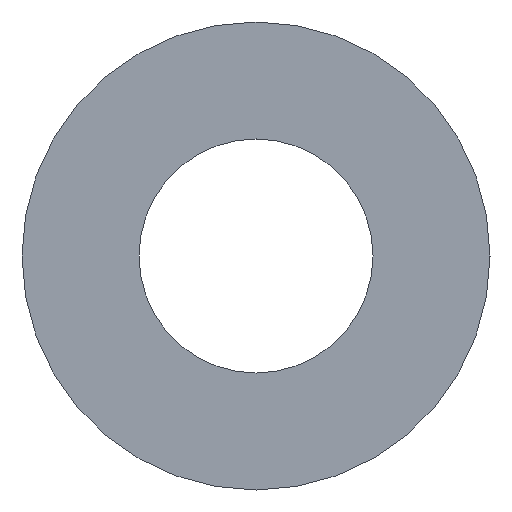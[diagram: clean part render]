
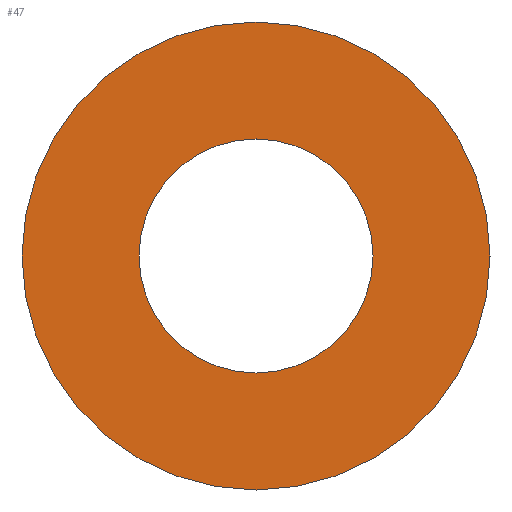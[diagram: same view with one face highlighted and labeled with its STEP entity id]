
A CAD part, left-side view. The second image highlights one B-rep face of the part: STEP entity #47.
In plain terms, the highlighted planar face has unit normal (-1, 0, 0) as drawn and (1, 0, 0) by its records, which use the part's own axes.
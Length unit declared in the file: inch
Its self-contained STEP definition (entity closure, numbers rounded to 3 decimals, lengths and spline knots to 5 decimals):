
#13 = AXIS2_PLACEMENT_3D ( 'NONE', #192, #313, #345 ) ;
#18 = VERTEX_POINT ( 'NONE', #247 ) ;
#22 = CARTESIAN_POINT ( 'NONE',  ( 6., 0., 0. ) ) ;
#29 = CIRCLE ( 'NONE', #186, 0.25 ) ;
#44 = ORIENTED_EDGE ( 'NONE', *, *, #172, .T. ) ;
#47 = ADVANCED_FACE ( 'NONE', ( #266, #68 ), #180, .T. ) ;
#68 = FACE_OUTER_BOUND ( 'NONE', #371, .T. ) ;
#72 = CIRCLE ( 'NONE', #96, 0.5 ) ;
#80 = DIRECTION ( 'NONE',  ( -1., 0., 0. ) ) ;
#86 = CIRCLE ( 'NONE', #13, 0.25 ) ;
#89 = CARTESIAN_POINT ( 'NONE',  ( 6., 0., -0.25 ) ) ;
#96 = AXIS2_PLACEMENT_3D ( 'NONE', #317, #195, #219 ) ;
#105 = DIRECTION ( 'NONE',  ( 1., 0., 0. ) ) ;
#146 = ORIENTED_EDGE ( 'NONE', *, *, #251, .T. ) ;
#151 = AXIS2_PLACEMENT_3D ( 'NONE', #275, #105, #307 ) ;
#161 = CIRCLE ( 'NONE', #302, 0.5 ) ;
#172 = EDGE_CURVE ( 'NONE', #377, #327, #29, .T. ) ;
#180 = PLANE ( 'NONE',  #151 ) ;
#186 = AXIS2_PLACEMENT_3D ( 'NONE', #368, #80, #365 ) ;
#188 = DIRECTION ( 'NONE',  ( 1., 0., 0. ) ) ;
#192 = CARTESIAN_POINT ( 'NONE',  ( 6., 0., 0. ) ) ;
#195 = DIRECTION ( 'NONE',  ( 1., 0., 0. ) ) ;
#210 = ORIENTED_EDGE ( 'NONE', *, *, #269, .T. ) ;
#219 = DIRECTION ( 'NONE',  ( 0., 0., -1. ) ) ;
#247 = CARTESIAN_POINT ( 'NONE',  ( 6., 0., -0.5 ) ) ;
#251 = EDGE_CURVE ( 'NONE', #327, #377, #86, .T. ) ;
#258 = VERTEX_POINT ( 'NONE', #373 ) ;
#266 = FACE_BOUND ( 'NONE', #294, .T. ) ;
#269 = EDGE_CURVE ( 'NONE', #258, #18, #161, .T. ) ;
#275 = CARTESIAN_POINT ( 'NONE',  ( 6., 0., -0.5 ) ) ;
#294 = EDGE_LOOP ( 'NONE', ( #146, #44 ) ) ;
#302 = AXIS2_PLACEMENT_3D ( 'NONE', #22, #188, #311 ) ;
#307 = DIRECTION ( 'NONE',  ( 0., 0., -1. ) ) ;
#311 = DIRECTION ( 'NONE',  ( 0., 0., -1. ) ) ;
#313 = DIRECTION ( 'NONE',  ( -1., 0., 0. ) ) ;
#314 = EDGE_CURVE ( 'NONE', #18, #258, #72, .T. ) ;
#317 = CARTESIAN_POINT ( 'NONE',  ( 6., 0., 0. ) ) ;
#327 = VERTEX_POINT ( 'NONE', #369 ) ;
#345 = DIRECTION ( 'NONE',  ( 0., 0., -1. ) ) ;
#350 = ORIENTED_EDGE ( 'NONE', *, *, #314, .T. ) ;
#365 = DIRECTION ( 'NONE',  ( 0., 0., -1. ) ) ;
#368 = CARTESIAN_POINT ( 'NONE',  ( 6., 0., 0. ) ) ;
#369 = CARTESIAN_POINT ( 'NONE',  ( 6., 0., 0.25 ) ) ;
#371 = EDGE_LOOP ( 'NONE', ( #350, #210 ) ) ;
#373 = CARTESIAN_POINT ( 'NONE',  ( 6., 0., 0.5 ) ) ;
#377 = VERTEX_POINT ( 'NONE', #89 ) ;
